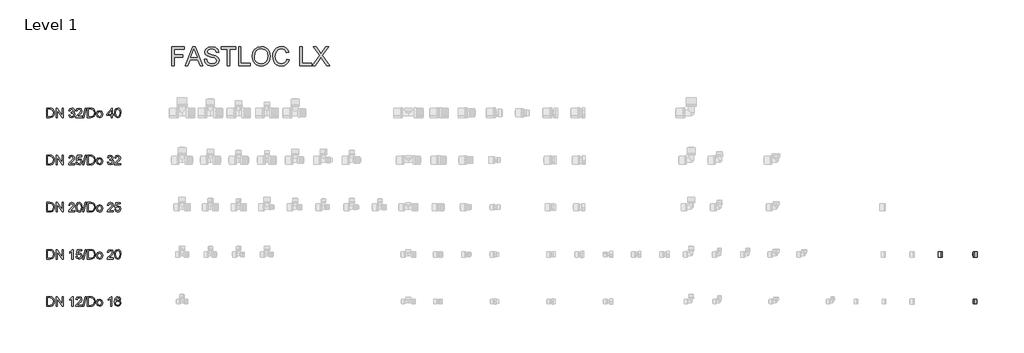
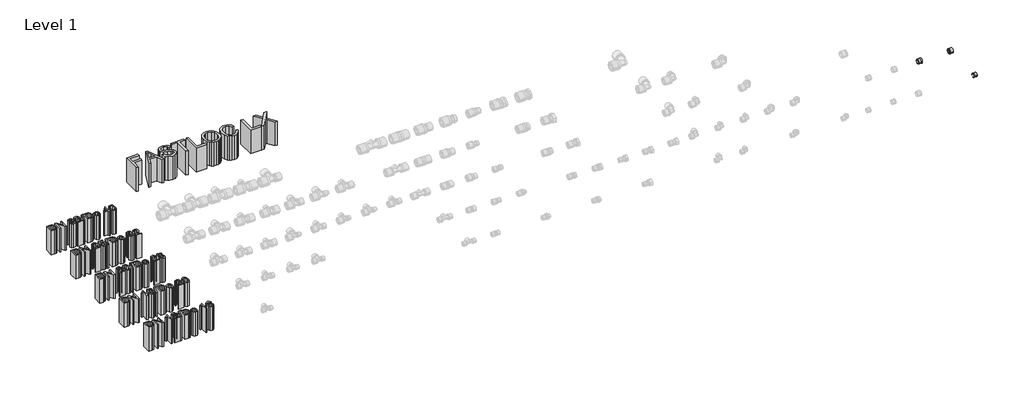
# One storey, part 4 of 4: 7 pipe fittings, 6 proxies.
"""IFC4 building model written with IfcOpenShell, lengths in millimetres."""

from ifc_helpers import new_model, si_unit, origin, origin_with_axes, place, context, project, spatial, polyline, outline, extrude, transform, mapped, element, save
from components import pipe_fitting_9e10578f, pipe_fitting_d1512616, pipe_fitting_53f43fdb, pipe_fitting_00778674, sleeve_fsl_pvdf_6f319e2d, sleeve_fsl_pvdf_957fc3e3, sleeve_fsl_pvdf_9ecdae78

model = new_model("IFC4")

# Units and contexts
model_context = context("Model", 3, world=origin())
ifc_project = project(units=[si_unit("LENGTHUNIT", "METRE", prefix="MILLI")], contexts=[model_context])

# Site, building, storey
site = spatial("IfcSite", under=ifc_project)
building = spatial("IfcBuilding", under=site)
storey = spatial("IfcBuildingStorey", under=building, Name="Level 1", Elevation=0.0)

# Proxies
placement = place(None, origin())
element("IfcBuildingElementProxy", 1, Name="100", ObjectType="100", at=placement, inside=storey, context=model_context, shape_type="SweptSolid", body=[
    extrude(outline(polyline([(-55.4125911, 1250.0), (-55.4125911, 1350.4563101), (12.0814923, 1350.4563101), (12.0814923, 1337.8992714), (-42.8555523, 1337.8992714), (-42.8555523, 1308.0763043), (4.2333431, 1308.0763043), (4.2333431, 1295.5192655), (-42.8555523, 1295.5192655), (-42.8555523, 1250.0), (-55.4125911, 1250.0)])), origin_with_axes(), (0.0, 0.0, 1.0), 150.0),
    extrude(outline(polyline([(17.6487732, 1250.0), (57.7479106, 1350.4563101), (68.441014, 1350.4563101), (108.5401514, 1250.0), (95.2718741, 1250.0), (83.7694304, 1281.3925969), (42.3949687, 1281.3925969), (30.9170505, 1250.0), (17.6487732, 1250.0)]), holes=[polyline([(47.0057564, 1293.9496357), (79.1831682, 1293.9496357), (70.1332711, 1318.6467803), (63.0944623, 1337.8992714), (56.8404684, 1320.8050213), (47.0057564, 1293.9496357)])]), origin_with_axes(), (0.0, 0.0, 1.0), 150.0),
    extrude(outline(polyline([(117.246692, 1284.5318566), (129.8037308, 1284.5318566), (133.8504327, 1271.9625551), (143.7341956, 1264.016304), (158.792832, 1260.9874089), (171.9139565, 1263.28054), (180.3875051, 1269.5835849), (183.1711455, 1278.0080826), (181.0864809, 1285.8439691), (172.5516186, 1291.54614), (154.2678834, 1296.3408687), (134.5861967, 1302.5335489), (123.9053561, 1311.8777516), (120.3859517, 1324.361214), (124.739222, 1338.5737217), (137.4556763, 1348.6046374), (156.0705052, 1352.02594), (175.936133, 1348.4452219), (189.1798848, 1337.9237968), (194.1585545, 1322.2029729), (181.6015157, 1322.2029729), (179.2961218, 1329.6955029), (174.4891304, 1335.1033682), (156.5610145, 1339.4689012), (138.5838477, 1335.1524192), (132.9429905, 1324.729096), (136.9406415, 1316.0225554), (157.4439313, 1309.008272), (179.6640038, 1302.7052272), (191.8163724, 1292.5271586), (195.7281843, 1278.3269136), (191.2277612, 1263.3050655), (178.278315, 1252.342182), (159.2833413, 1248.4303702), (136.8548023, 1252.6487504), (122.6668201, 1265.3529419), (117.246692, 1284.5318566)])), origin_with_axes(), (0.0, 0.0, 1.0), 150.0),
    extrude(outline(polyline([(239.67782, 1250.0), (239.67782, 1337.8992714), (206.7155932, 1337.8992714), (206.7155932, 1350.4563101), (285.1970855, 1350.4563101), (285.1970855, 1337.8992714), (252.2348588, 1337.8992714), (252.2348588, 1250.0), (239.67782, 1250.0)])), origin_with_axes(), (0.0, 0.0, 1.0), 150.0),
    extrude(outline(polyline([(299.3237541, 1250.0), (299.3237541, 1350.4563101), (311.8807929, 1350.4563101), (311.8807929, 1262.5570388), (362.108948, 1262.5570388), (362.108948, 1250.0), (299.3237541, 1250.0)])), origin_with_axes(), (0.0, 0.0, 1.0), 150.0),
    extrude(outline(polyline([(371.5267271, 1298.9037799), (374.8744532, 1321.117721), (384.9176317, 1337.9237968), (400.2521795, 1348.5004042), (419.4740138, 1352.02594), (432.6503206, 1350.370471), (444.465464, 1345.4040641), (454.2756505, 1337.4762071), (461.4370867, 1326.9363879), (465.8148824, 1314.29351), (467.2741477, 1300.0564768), (465.7382403, 1285.6293712), (461.1305184, 1272.8086837), (453.7054334, 1262.2504704), (443.7174372, 1254.6107877), (432.0034614, 1249.9754745), (419.4004374, 1248.4303702), (406.0217955, 1250.1379557), (394.139207, 1255.2607125), (384.353546, 1263.3357223), (377.2656862, 1273.900067), (371.5267271, 1298.9037799)]), holes=[polyline([(384.0837658, 1298.7811526), (386.5945604, 1283.06646), (394.1269443, 1271.0919011), (405.4485127, 1263.513532), (419.326861, 1260.9874089), (433.4075443, 1263.5380574), (444.7475068, 1271.1900029), (452.2247084, 1283.5324439), (454.7171089, 1300.1545787), (450.4496778, 1320.8785977), (437.9784781, 1334.6005962), (419.5475902, 1339.4689012), (406.0401896, 1337.1236535), (394.55614, 1330.0879103), (386.7018594, 1317.5707255), (384.0837658, 1298.7811526)])]), origin_with_axes(), (0.0, 0.0, 1.0), 150.0),
    extrude(outline(polyline([(555.1734191, 1285.709079), (567.7304578, 1282.4717174), (561.9363164, 1267.8392111), (552.8434997, 1257.1491734), (540.8995976, 1250.610071), (526.5521998, 1248.4303702), (511.9871385, 1250.0797078), (500.4203154, 1255.0277206), (491.5543594, 1263.1027304), (485.091899, 1274.1330589), (479.8311864, 1300.9884445), (481.3180428, 1315.6362793), (485.778612, 1328.2852886), (492.9799021, 1338.5338678), (502.6889211, 1345.9804125), (514.2036275, 1350.5145581), (526.82198, 1352.02594), (540.5899636, 1350.0700341), (551.9728457, 1344.2023162), (560.6150069, 1334.7845372), (566.160828, 1322.1784475), (553.6037892, 1319.1863406), (543.3030933, 1334.6251216), (526.3314706, 1339.4689012), (506.6865721, 1334.0978241), (495.5887986, 1319.6768499), (492.3882252, 1301.01297), (496.1774098, 1279.3815087), (507.9741591, 1265.5614084), (525.301401, 1260.9874089), (535.7829722, 1262.544776), (544.5171039, 1267.2168774), (551.1113887, 1274.954662), (555.1734191, 1285.709079)])), origin_with_axes(), (0.0, 0.0, 1.0), 150.0),
    extrude(outline(polyline([(624.2371323, 1250.0), (624.2371323, 1350.4563101), (636.794171, 1350.4563101), (636.794171, 1262.5570388), (687.0223261, 1262.5570388), (687.0223261, 1250.0), (624.2371323, 1250.0)])), origin_with_axes(), (0.0, 0.0, 1.0), 150.0),
    extrude(outline(polyline([(690.1615858, 1250.0), (728.8872972, 1304.7408409), (696.4401052, 1350.4563101), (711.4987415, 1350.4563101), (729.770214, 1324.729096), (735.926106, 1314.6981802), (743.1365931, 1324.9007742), (761.2118618, 1350.4563101), (776.4912273, 1350.4563101), (744.0440354, 1304.5936881), (782.7697467, 1250.0), (767.7111104, 1250.0), (741.9103198, 1286.3957921), (736.5392427, 1293.9496357), (730.6286053, 1285.6600281), (705.4409513, 1250.0), (690.1615858, 1250.0)])), origin_with_axes(), (0.0, 0.0, 1.0), 150.0),
])
element("IfcBuildingElementProxy", 2, Name="50", ObjectType="50", at=placement, inside=storey, context=model_context, shape_type="SweptSolid", body=[
    extrude(outline(polyline([(-718.8952859, -25.0), (-718.8952859, 25.2281551), (-701.5680439, 25.2281551), (-692.6039859, 24.5046538), (-685.2218206, 20.911673), (-679.274395, 12.3277598), (-677.3000949, 0.3838577), (-678.6367329, -9.7512913), (-682.0702982, -17.0660116), (-686.6565604, -21.621617), (-692.6591682, -24.1416087), (-700.734178, -25.0), (-718.8952859, -25.0)]), holes=[polyline([(-712.6167665, -18.7214806), (-701.5067302, -18.7214806), (-693.4255891, -17.8140384), (-688.7657505, -15.2511271), (-684.9459091, -9.0155273), (-683.5786143, 0.4819595), (-686.2580215, 12.3768107), (-692.7756642, 17.9440916), (-701.6784085, 18.9496357), (-712.6167665, 18.9496357), (-712.6167665, -18.7214806)])]), origin_with_axes(), (0.0, 0.0, 1.0), 150.0),
    extrude(outline(polyline([(-668.6671308, -25.0), (-668.6671308, 25.2281551), (-661.947153, 25.2281551), (-635.704904, -14.5644141), (-635.704904, 25.2281551), (-629.4263846, 25.2281551), (-629.4263846, -25.0), (-636.1463624, -25.0), (-662.3886114, 14.8048319), (-662.3886114, -25.0), (-668.6671308, -25.0)])), origin_with_axes(), (0.0, 0.0, 1.0), 150.0),
    extrude(outline(polyline([(-577.6285997, -25.0), (-583.9071191, -25.0), (-583.9071191, 14.1426443), (-589.8545447, 9.90587), (-596.4641579, 6.7359535), (-596.4641579, 12.6711163), (-587.2609766, 18.5449655), (-581.6753017, 25.2281551), (-577.6285997, 25.2281551), (-577.6285997, -25.0)])), origin_with_axes(), (0.0, 0.0, 1.0), 150.0),
    extrude(outline(polyline([(-530.5397043, -18.7214806), (-530.5397043, -25.0), (-563.5019311, -25.0), (-562.8274808, -20.6712552), (-559.0137708, -14.0064597), (-551.1533588, -6.7285276), (-540.3131027, 3.7315838), (-537.6030386, 10.8439691), (-540.1598185, 16.6013223), (-546.8368767, 18.9496357), (-553.7959778, 16.6565046), (-556.4385968, 10.3166715), (-562.7171162, 11.1014865), (-557.9039934, 21.6106488), (-546.7019867, 25.2281551), (-535.4631917, 21.2059786), (-531.3245193, 11.2241138), (-532.440428, 5.2705568), (-536.1499048, -0.8853352), (-545.1446195, -9.4876425), (-552.3673694, -15.5270386), (-555.2000608, -18.7214806), (-530.5397043, -18.7214806)])), origin_with_axes(), (0.0, 0.0, 1.0), 150.0),
    extrude(outline(polyline([(-527.4004446, -25.0), (-513.273776, 25.2281551), (-507.6083933, 25.2281551), (-521.7350619, -25.0), (-527.4004446, -25.0)])), origin_with_axes(), (0.0, 0.0, 1.0), 150.0),
    extrude(outline(polyline([(-502.2863671, -25.0), (-502.2863671, 25.2281551), (-484.9591251, 25.2281551), (-475.9950672, 24.5046538), (-468.6129018, 20.911673), (-462.6654762, 12.3277598), (-460.6911762, 0.3838577), (-462.0278141, -9.7512913), (-465.4613794, -17.0660116), (-470.0476416, -21.621617), (-476.0502495, -24.1416087), (-484.1252593, -25.0), (-502.2863671, -25.0)]), holes=[polyline([(-496.0078477, -18.7214806), (-484.8978115, -18.7214806), (-476.8166703, -17.8140384), (-472.1568317, -15.2511271), (-468.3369903, -9.0155273), (-466.9696956, 0.4819595), (-469.6491028, 12.3768107), (-476.1667455, 17.9440916), (-485.0694897, 18.9496357), (-496.0078477, 18.9496357), (-496.0078477, -18.7214806)])]), origin_with_axes(), (0.0, 0.0, 1.0), 150.0),
    extrude(outline(polyline([(-454.4126568, -6.5568493), (-453.0545591, 2.3366979), (-448.980266, 8.5876262), (-437.9192807, 12.6711163), (-426.0550863, 7.698578), (-421.45043, -6.0418145), (-423.4860437, -17.2131644), (-429.4150752, -23.5346034), (-437.9192807, -25.7848149), (-449.8570514, -20.8306707), (-454.4126568, -6.5568493)]), holes=[polyline([(-448.1341374, -6.5445866), (-445.2278697, -16.2750653), (-437.9192807, -19.5062955), (-430.6352172, -16.2566712), (-427.7289494, -6.3483828), (-430.6536113, 3.1613667), (-437.9192807, 6.3925969), (-445.2278697, 3.1736295), (-448.1341374, -6.5445866)])]), origin_with_axes(), (0.0, 0.0, 1.0), 150.0),
    extrude(outline(polyline([(-372.7919048, -25.0), (-379.0704242, -25.0), (-379.0704242, 14.1426443), (-385.0178498, 9.90587), (-391.627463, 6.7359535), (-391.627463, 12.6711163), (-382.4242817, 18.5449655), (-376.8386068, 25.2281551), (-372.7919048, 25.2281551), (-372.7919048, -25.0)])), origin_with_axes(), (0.0, 0.0, 1.0), 150.0),
    extrude(outline(polyline([(-325.7030094, 11.8863014), (-331.9815288, 11.1014865), (-334.360499, 16.3376735), (-340.6512812, 18.9496357), (-346.3166639, 17.4290568), (-350.6024891, 11.7207545), (-352.3867168, 0.5310105), (-346.8500928, 5.540337), (-339.9890936, 7.1774118), (-329.3205157, 2.7015142), (-324.9181945, -8.8622431), (-326.9905964, -17.5258641), (-332.6927673, -23.6572307), (-340.9210613, -25.7848149), (-353.7172234, -20.1439577), (-357.428233, -12.6759532), (-358.6652362, -1.5536542), (-357.2918101, 10.951268), (-353.1715317, 19.5014587), (-347.5460029, 23.796481), (-340.2588737, 25.2281551), (-330.3383226, 21.6842252), (-325.7030094, 11.8863014)]), holes=[polyline([(-352.3867168, -8.7641413), (-350.9335829, -14.2026634), (-347.070822, -18.1512635), (-341.4115706, -19.5062955), (-334.0110111, -16.6981296), (-331.1967139, -9.0707096), (-333.974223, -1.768252), (-341.669088, 0.8988925), (-349.2658512, -1.768252), (-352.3867168, -8.7641413)])]), origin_with_axes(), (0.0, 0.0, 1.0), 150.0),
])
element("IfcBuildingElementProxy", 3, Name="50", ObjectType="50", at=placement, inside=storey, context=model_context, shape_type="SweptSolid", body=[
    extrude(outline(polyline([(-718.8952859, 225.0), (-718.8952859, 275.2281551), (-701.5680439, 275.2281551), (-692.6039859, 274.5046538), (-685.2218206, 270.911673), (-679.274395, 262.3277598), (-677.3000949, 250.3838577), (-678.6367329, 240.2487087), (-682.0702982, 232.9339884), (-686.6565604, 228.378383), (-692.6591682, 225.8583913), (-700.734178, 225.0), (-718.8952859, 225.0)]), holes=[polyline([(-712.6167665, 231.2785194), (-701.5067302, 231.2785194), (-693.4255891, 232.1859616), (-688.7657505, 234.7488729), (-684.9459091, 240.9844727), (-683.5786143, 250.4819595), (-686.2580215, 262.3768107), (-692.7756642, 267.9440916), (-701.6784085, 268.9496357), (-712.6167665, 268.9496357), (-712.6167665, 231.2785194)])]), origin_with_axes(), (0.0, 0.0, 1.0), 150.0),
    extrude(outline(polyline([(-668.6671308, 225.0), (-668.6671308, 275.2281551), (-661.947153, 275.2281551), (-635.704904, 235.4355859), (-635.704904, 275.2281551), (-629.4263846, 275.2281551), (-629.4263846, 225.0), (-636.1463624, 225.0), (-662.3886114, 264.8048319), (-662.3886114, 225.0), (-668.6671308, 225.0)])), origin_with_axes(), (0.0, 0.0, 1.0), 150.0),
    extrude(outline(polyline([(-577.6285997, 225.0), (-583.9071191, 225.0), (-583.9071191, 264.1426443), (-589.8545447, 259.90587), (-596.4641579, 256.7359535), (-596.4641579, 262.6711163), (-587.2609766, 268.5449655), (-581.6753017, 275.2281551), (-577.6285997, 275.2281551), (-577.6285997, 225.0)])), origin_with_axes(), (0.0, 0.0, 1.0), 150.0),
    extrude(outline(polyline([(-562.7171162, 238.3418537), (-556.4385968, 239.1266686), (-553.2748116, 232.6580769), (-546.7142494, 230.4937045), (-538.8415747, 233.5042055), (-536.0334088, 241.4933761), (-538.6637651, 248.9491179), (-546.6161475, 251.6837074), (-552.1282461, 250.5923241), (-555.6537819, 247.7596328), (-561.9323013, 248.5444477), (-556.4385968, 274.4433402), (-532.1093342, 274.4433402), (-532.1093342, 268.1648208), (-551.3618253, 268.1648208), (-554.0473638, 254.3324577), (-544.8625767, 257.9622268), (-534.1265538, 253.4618037), (-529.7548894, 241.8857836), (-533.6912268, 230.2361871), (-539.3443468, 225.7204356), (-546.7387749, 224.2151851), (-557.8181543, 228.0840774), (-562.7171162, 238.3418537)])), origin_with_axes(), (0.0, 0.0, 1.0), 150.0),
    extrude(outline(polyline([(-527.4004446, 225.0), (-513.273776, 275.2281551), (-507.6083933, 275.2281551), (-521.7350619, 225.0), (-527.4004446, 225.0)])), origin_with_axes(), (0.0, 0.0, 1.0), 150.0),
    extrude(outline(polyline([(-502.2863671, 225.0), (-502.2863671, 275.2281551), (-484.9591251, 275.2281551), (-475.9950672, 274.5046538), (-468.6129018, 270.911673), (-462.6654762, 262.3277598), (-460.6911762, 250.3838577), (-462.0278141, 240.2487087), (-465.4613794, 232.9339884), (-470.0476416, 228.378383), (-476.0502495, 225.8583913), (-484.1252593, 225.0), (-502.2863671, 225.0)]), holes=[polyline([(-496.0078477, 231.2785194), (-484.8978115, 231.2785194), (-476.8166703, 232.1859616), (-472.1568317, 234.7488729), (-468.3369903, 240.9844727), (-466.9696956, 250.4819595), (-469.6491028, 262.3768107), (-476.1667455, 267.9440916), (-485.0694897, 268.9496357), (-496.0078477, 268.9496357), (-496.0078477, 231.2785194)])]), origin_with_axes(), (0.0, 0.0, 1.0), 150.0),
    extrude(outline(polyline([(-454.4126568, 243.4431507), (-453.0545591, 252.3366979), (-448.980266, 258.5876262), (-437.9192807, 262.6711163), (-426.0550863, 257.698578), (-421.45043, 243.9581855), (-423.4860437, 232.7868356), (-429.4150752, 226.4653966), (-437.9192807, 224.2151851), (-449.8570514, 229.1693293), (-454.4126568, 243.4431507)]), holes=[polyline([(-448.1341374, 243.4554134), (-445.2278697, 233.7249347), (-437.9192807, 230.4937045), (-430.6352172, 233.7433288), (-427.7289494, 243.6516172), (-430.6536113, 253.1613667), (-437.9192807, 256.3925969), (-445.2278697, 253.1736295), (-448.1341374, 243.4554134)])]), origin_with_axes(), (0.0, 0.0, 1.0), 150.0),
    extrude(outline(polyline([(-364.1589407, 231.2785194), (-364.1589407, 225.0), (-397.1211674, 225.0), (-396.4467171, 229.3287448), (-392.6330071, 235.9935403), (-384.7725951, 243.2714724), (-373.932339, 253.7315838), (-371.222275, 260.8439691), (-373.7790548, 266.6013223), (-380.456113, 268.9496357), (-387.4152141, 266.6565046), (-390.0578331, 260.3166715), (-396.3363525, 261.1014865), (-391.5232297, 271.6106488), (-380.321223, 275.2281551), (-369.082428, 271.2059786), (-364.9437556, 261.2241138), (-366.0596643, 255.2705568), (-369.7691411, 249.1146648), (-378.7638559, 240.5123575), (-385.9866057, 234.4729614), (-388.8192971, 231.2785194), (-364.1589407, 231.2785194)])), origin_with_axes(), (0.0, 0.0, 1.0), 150.0),
    extrude(outline(polyline([(-357.8804213, 249.7094073), (-356.0348799, 264.1610384), (-350.5534382, 272.4935656), (-341.3993079, 275.2281551), (-334.0661934, 273.6094743), (-329.0016846, 268.9435043), (-326.0586287, 261.512288), (-324.9181945, 249.7094073), (-326.7453417, 235.31909), (-332.2083894, 226.9681687), (-341.3993079, 224.2151851), (-352.8772261, 228.997651), (-356.6296225, 237.4926594), (-357.8804213, 249.7094073)]), holes=[polyline([(-351.6019019, 249.7216701), (-348.6588459, 234.1296048), (-341.3993079, 230.4937045), (-334.1397698, 234.1418676), (-331.1967139, 249.7216701), (-334.041668, 265.1359257), (-341.4728843, 268.9496357), (-348.5607441, 265.5896468), (-351.6019019, 249.7216701)])]), origin_with_axes(), (0.0, 0.0, 1.0), 150.0),
])
element("IfcBuildingElementProxy", 4, Name="50", ObjectType="50", at=placement, inside=storey, context=model_context, shape_type="SweptSolid", body=[
    extrude(outline(polyline([(-718.8952859, 475.0), (-718.8952859, 525.2281551), (-701.5680439, 525.2281551), (-692.6039859, 524.5046538), (-685.2218206, 520.911673), (-679.274395, 512.3277598), (-677.3000949, 500.3838577), (-678.6367329, 490.2487087), (-682.0702982, 482.9339884), (-686.6565604, 478.378383), (-692.6591682, 475.8583913), (-700.734178, 475.0), (-718.8952859, 475.0)]), holes=[polyline([(-712.6167665, 481.2785194), (-701.5067302, 481.2785194), (-693.4255891, 482.1859616), (-688.7657505, 484.7488729), (-684.9459091, 490.9844727), (-683.5786143, 500.4819595), (-686.2580215, 512.3768107), (-692.7756642, 517.9440916), (-701.6784085, 518.9496357), (-712.6167665, 518.9496357), (-712.6167665, 481.2785194)])]), origin_with_axes(), (0.0, 0.0, 1.0), 150.0),
    extrude(outline(polyline([(-668.6671308, 475.0), (-668.6671308, 525.2281551), (-661.947153, 525.2281551), (-635.704904, 485.4355859), (-635.704904, 525.2281551), (-629.4263846, 525.2281551), (-629.4263846, 475.0), (-636.1463624, 475.0), (-662.3886114, 514.8048319), (-662.3886114, 475.0), (-668.6671308, 475.0)])), origin_with_axes(), (0.0, 0.0, 1.0), 150.0),
    extrude(outline(polyline([(-568.9956356, 481.2785194), (-568.9956356, 475.0), (-601.9578623, 475.0), (-601.283412, 479.3287448), (-597.469702, 485.9935403), (-589.60929, 493.2714724), (-578.7690339, 503.7315838), (-576.0589699, 510.8439691), (-578.6157497, 516.6013223), (-585.292808, 518.9496357), (-592.251909, 516.6565046), (-594.894528, 510.3166715), (-601.1730474, 511.1014865), (-596.3599246, 521.6106488), (-585.1579179, 525.2281551), (-573.9191229, 521.2059786), (-569.7804505, 511.2241138), (-570.8963592, 505.2705568), (-574.605836, 499.1146648), (-583.6005508, 490.5123575), (-590.8233006, 484.4729614), (-593.655992, 481.2785194), (-568.9956356, 481.2785194)])), origin_with_axes(), (0.0, 0.0, 1.0), 150.0),
    extrude(outline(polyline([(-562.7171162, 499.7094073), (-560.8715748, 514.1610384), (-555.3901331, 522.4935656), (-546.2360028, 525.2281551), (-538.9028884, 523.6094743), (-533.8383796, 518.9435043), (-530.8953236, 511.512288), (-529.7548894, 499.7094073), (-531.5820367, 485.31909), (-537.0450843, 476.9681687), (-546.2360028, 474.2151851), (-557.7139211, 478.997651), (-561.4663174, 487.4926594), (-562.7171162, 499.7094073)]), holes=[polyline([(-556.4385968, 499.7216701), (-553.4955408, 484.1296048), (-546.2360028, 480.4937045), (-538.9764648, 484.1418676), (-536.0334088, 499.7216701), (-538.8783629, 515.1359257), (-546.3095792, 518.9496357), (-553.397439, 515.5896468), (-556.4385968, 499.7216701)])]), origin_with_axes(), (0.0, 0.0, 1.0), 150.0),
    extrude(outline(polyline([(-527.4004446, 475.0), (-513.273776, 525.2281551), (-507.6083933, 525.2281551), (-521.7350619, 475.0), (-527.4004446, 475.0)])), origin_with_axes(), (0.0, 0.0, 1.0), 150.0),
    extrude(outline(polyline([(-502.2863671, 475.0), (-502.2863671, 525.2281551), (-484.9591251, 525.2281551), (-475.9950672, 524.5046538), (-468.6129018, 520.911673), (-462.6654762, 512.3277598), (-460.6911762, 500.3838577), (-462.0278141, 490.2487087), (-465.4613794, 482.9339884), (-470.0476416, 478.378383), (-476.0502495, 475.8583913), (-484.1252593, 475.0), (-502.2863671, 475.0)]), holes=[polyline([(-496.0078477, 481.2785194), (-484.8978115, 481.2785194), (-476.8166703, 482.1859616), (-472.1568317, 484.7488729), (-468.3369903, 490.9844727), (-466.9696956, 500.4819595), (-469.6491028, 512.3768107), (-476.1667455, 517.9440916), (-485.0694897, 518.9496357), (-496.0078477, 518.9496357), (-496.0078477, 481.2785194)])]), origin_with_axes(), (0.0, 0.0, 1.0), 150.0),
    extrude(outline(polyline([(-454.4126568, 493.4431507), (-453.0545591, 502.3366979), (-448.980266, 508.5876262), (-437.9192807, 512.6711163), (-426.0550863, 507.698578), (-421.45043, 493.9581855), (-423.4860437, 482.7868356), (-429.4150752, 476.4653966), (-437.9192807, 474.2151851), (-449.8570514, 479.1693293), (-454.4126568, 493.4431507)]), holes=[polyline([(-448.1341374, 493.4554134), (-445.2278697, 483.7249347), (-437.9192807, 480.4937045), (-430.6352172, 483.7433288), (-427.7289494, 493.6516172), (-430.6536113, 503.1613667), (-437.9192807, 506.3925969), (-445.2278697, 503.1736295), (-448.1341374, 493.4554134)])]), origin_with_axes(), (0.0, 0.0, 1.0), 150.0),
    extrude(outline(polyline([(-364.1589407, 481.2785194), (-364.1589407, 475.0), (-397.1211674, 475.0), (-396.4467171, 479.3287448), (-392.6330071, 485.9935403), (-384.7725951, 493.2714724), (-373.932339, 503.7315838), (-371.222275, 510.8439691), (-373.7790548, 516.6013223), (-380.456113, 518.9496357), (-387.4152141, 516.6565046), (-390.0578331, 510.3166715), (-396.3363525, 511.1014865), (-391.5232297, 521.6106488), (-380.321223, 525.2281551), (-369.082428, 521.2059786), (-364.9437556, 511.2241138), (-366.0596643, 505.2705568), (-369.7691411, 499.1146648), (-378.7638559, 490.5123575), (-385.9866057, 484.4729614), (-388.8192971, 481.2785194), (-364.1589407, 481.2785194)])), origin_with_axes(), (0.0, 0.0, 1.0), 150.0),
    extrude(outline(polyline([(-357.8804213, 488.3418537), (-351.6019019, 489.1266686), (-348.4381167, 482.6580769), (-341.8775545, 480.4937045), (-334.0048798, 483.5042055), (-331.1967139, 491.4933761), (-333.8270702, 498.9491179), (-341.7794526, 501.6837074), (-347.2915512, 500.5923241), (-350.817087, 497.7596328), (-357.0956063, 498.5444477), (-351.6019019, 524.4433402), (-327.2726393, 524.4433402), (-327.2726393, 518.1648208), (-346.5251304, 518.1648208), (-349.2106689, 504.3324577), (-340.0258818, 507.9622268), (-329.2898589, 503.4618037), (-324.9181945, 491.8857836), (-328.8545319, 480.2361871), (-334.5076518, 475.7204356), (-341.9020799, 474.2151851), (-352.9814594, 478.0840774), (-357.8804213, 488.3418537)])), origin_with_axes(), (0.0, 0.0, 1.0), 150.0),
])
element("IfcBuildingElementProxy", 5, Name="50", ObjectType="50", at=placement, inside=storey, context=model_context, shape_type="SweptSolid", body=[
    extrude(outline(polyline([(-718.8952859, 725.0), (-718.8952859, 775.2281551), (-701.5680439, 775.2281551), (-692.6039859, 774.5046538), (-685.2218206, 770.911673), (-679.274395, 762.3277598), (-677.3000949, 750.3838577), (-678.6367329, 740.2487087), (-682.0702982, 732.9339884), (-686.6565604, 728.378383), (-692.6591682, 725.8583913), (-700.734178, 725.0), (-718.8952859, 725.0)]), holes=[polyline([(-712.6167665, 731.2785194), (-701.5067302, 731.2785194), (-693.4255891, 732.1859616), (-688.7657505, 734.7488729), (-684.9459091, 740.9844727), (-683.5786143, 750.4819595), (-686.2580215, 762.3768107), (-692.7756642, 767.9440916), (-701.6784085, 768.9496357), (-712.6167665, 768.9496357), (-712.6167665, 731.2785194)])]), origin_with_axes(), (0.0, 0.0, 1.0), 150.0),
    extrude(outline(polyline([(-668.6671308, 725.0), (-668.6671308, 775.2281551), (-661.947153, 775.2281551), (-635.704904, 735.4355859), (-635.704904, 775.2281551), (-629.4263846, 775.2281551), (-629.4263846, 725.0), (-636.1463624, 725.0), (-662.3886114, 764.8048319), (-662.3886114, 725.0), (-668.6671308, 725.0)])), origin_with_axes(), (0.0, 0.0, 1.0), 150.0),
    extrude(outline(polyline([(-568.9956356, 731.2785194), (-568.9956356, 725.0), (-601.9578623, 725.0), (-601.283412, 729.3287448), (-597.469702, 735.9935403), (-589.60929, 743.2714724), (-578.7690339, 753.7315838), (-576.0589699, 760.8439691), (-578.6157497, 766.6013223), (-585.292808, 768.9496357), (-592.251909, 766.6565046), (-594.894528, 760.3166715), (-601.1730474, 761.1014865), (-596.3599246, 771.6106488), (-585.1579179, 775.2281551), (-573.9191229, 771.2059786), (-569.7804505, 761.2241138), (-570.8963592, 755.2705568), (-574.605836, 749.1146648), (-583.6005508, 740.5123575), (-590.8233006, 734.4729614), (-593.655992, 731.2785194), (-568.9956356, 731.2785194)])), origin_with_axes(), (0.0, 0.0, 1.0), 150.0),
    extrude(outline(polyline([(-562.7171162, 738.3418537), (-556.4385968, 739.1266686), (-553.2748116, 732.6580769), (-546.7142494, 730.4937045), (-538.8415747, 733.5042055), (-536.0334088, 741.4933761), (-538.6637651, 748.9491179), (-546.6161475, 751.6837074), (-552.1282461, 750.5923241), (-555.6537819, 747.7596328), (-561.9323013, 748.5444477), (-556.4385968, 774.4433402), (-532.1093342, 774.4433402), (-532.1093342, 768.1648208), (-551.3618253, 768.1648208), (-554.0473638, 754.3324577), (-544.8625767, 757.9622268), (-534.1265538, 753.4618037), (-529.7548894, 741.8857836), (-533.6912268, 730.2361871), (-539.3443468, 725.7204356), (-546.7387749, 724.2151851), (-557.8181543, 728.0840774), (-562.7171162, 738.3418537)])), origin_with_axes(), (0.0, 0.0, 1.0), 150.0),
    extrude(outline(polyline([(-527.4004446, 725.0), (-513.273776, 775.2281551), (-507.6083933, 775.2281551), (-521.7350619, 725.0), (-527.4004446, 725.0)])), origin_with_axes(), (0.0, 0.0, 1.0), 150.0),
    extrude(outline(polyline([(-502.2863671, 725.0), (-502.2863671, 775.2281551), (-484.9591251, 775.2281551), (-475.9950672, 774.5046538), (-468.6129018, 770.911673), (-462.6654762, 762.3277598), (-460.6911762, 750.3838577), (-462.0278141, 740.2487087), (-465.4613794, 732.9339884), (-470.0476416, 728.378383), (-476.0502495, 725.8583913), (-484.1252593, 725.0), (-502.2863671, 725.0)]), holes=[polyline([(-496.0078477, 731.2785194), (-484.8978115, 731.2785194), (-476.8166703, 732.1859616), (-472.1568317, 734.7488729), (-468.3369903, 740.9844727), (-466.9696956, 750.4819595), (-469.6491028, 762.3768107), (-476.1667455, 767.9440916), (-485.0694897, 768.9496357), (-496.0078477, 768.9496357), (-496.0078477, 731.2785194)])]), origin_with_axes(), (0.0, 0.0, 1.0), 150.0),
    extrude(outline(polyline([(-454.4126568, 743.4431507), (-453.0545591, 752.3366979), (-448.980266, 758.5876262), (-437.9192807, 762.6711163), (-426.0550863, 757.698578), (-421.45043, 743.9581855), (-423.4860437, 732.7868356), (-429.4150752, 726.4653966), (-437.9192807, 724.2151851), (-449.8570514, 729.1693293), (-454.4126568, 743.4431507)]), holes=[polyline([(-448.1341374, 743.4554134), (-445.2278697, 733.7249347), (-437.9192807, 730.4937045), (-430.6352172, 733.7433288), (-427.7289494, 743.6516172), (-430.6536113, 753.1613667), (-437.9192807, 756.3925969), (-445.2278697, 753.1736295), (-448.1341374, 743.4554134)])]), origin_with_axes(), (0.0, 0.0, 1.0), 150.0),
    extrude(outline(polyline([(-396.3363525, 738.3418537), (-390.0578331, 739.1266686), (-386.593611, 732.5170554), (-380.1127565, 730.4937045), (-372.4853365, 733.2773449), (-369.6526451, 740.1690009), (-372.460811, 746.6621181), (-379.5977217, 749.2311607), (-384.0000429, 748.5444477), (-383.3010671, 754.8229671), (-375.170875, 756.5520125), (-372.0070899, 762.0947678), (-374.300221, 767.0059925), (-380.2108584, 768.9496357), (-386.1950722, 766.9875984), (-389.2730182, 761.1014865), (-395.5515376, 761.8863014), (-390.4134524, 771.7332761), (-380.4315876, 775.2281551), (-372.8593498, 773.5052411), (-367.5618491, 768.7963515), (-365.7285705, 762.4626498), (-367.4698786, 756.6746398), (-372.6202265, 752.5175732), (-365.7776214, 748.2256166), (-363.3741257, 740.0586363), (-368.1811171, 728.8259727), (-380.3334857, 724.2151851), (-391.3454201, 728.1515224), (-396.3363525, 738.3418537)])), origin_with_axes(), (0.0, 0.0, 1.0), 150.0),
    extrude(outline(polyline([(-325.7030094, 731.2785194), (-325.7030094, 725.0), (-358.6652362, 725.0), (-357.9907859, 729.3287448), (-354.1770759, 735.9935403), (-346.3166639, 743.2714724), (-335.4764078, 753.7315838), (-332.7663437, 760.8439691), (-335.3231236, 766.6013223), (-342.0001818, 768.9496357), (-348.9592829, 766.6565046), (-351.6019019, 760.3166715), (-357.8804213, 761.1014865), (-353.0672985, 771.6106488), (-341.8652917, 775.2281551), (-330.6264968, 771.2059786), (-326.4878243, 761.2241138), (-327.6037331, 755.2705568), (-331.3132099, 749.1146648), (-340.3079246, 740.5123575), (-347.5306745, 734.4729614), (-350.3633658, 731.2785194), (-325.7030094, 731.2785194)])), origin_with_axes(), (0.0, 0.0, 1.0), 150.0),
])
element("IfcBuildingElementProxy", 6, Name="50", ObjectType="50", at=placement, inside=storey, context=model_context, shape_type="SweptSolid", body=[
    extrude(outline(polyline([(-718.8952859, 975.0), (-718.8952859, 1025.2281551), (-701.5680439, 1025.2281551), (-692.6039859, 1024.5046538), (-685.2218206, 1020.911673), (-679.274395, 1012.3277598), (-677.3000949, 1000.3838577), (-678.6367329, 990.2487087), (-682.0702982, 982.9339884), (-686.6565604, 978.378383), (-692.6591682, 975.8583913), (-700.734178, 975.0), (-718.8952859, 975.0)]), holes=[polyline([(-712.6167665, 981.2785194), (-701.5067302, 981.2785194), (-693.4255891, 982.1859616), (-688.7657505, 984.7488729), (-684.9459091, 990.9844727), (-683.5786143, 1000.4819595), (-686.2580215, 1012.3768107), (-692.7756642, 1017.9440916), (-701.6784085, 1018.9496357), (-712.6167665, 1018.9496357), (-712.6167665, 981.2785194)])]), origin_with_axes(), (0.0, 0.0, 1.0), 150.0),
    extrude(outline(polyline([(-668.6671308, 975.0), (-668.6671308, 1025.2281551), (-661.947153, 1025.2281551), (-635.704904, 985.4355859), (-635.704904, 1025.2281551), (-629.4263846, 1025.2281551), (-629.4263846, 975.0), (-636.1463624, 975.0), (-662.3886114, 1014.8048319), (-662.3886114, 975.0), (-668.6671308, 975.0)])), origin_with_axes(), (0.0, 0.0, 1.0), 150.0),
    extrude(outline(polyline([(-601.1730474, 988.3418537), (-594.894528, 989.1266686), (-591.4303059, 982.5170554), (-584.9494514, 980.4937045), (-577.3220314, 983.2773449), (-574.48934, 990.1690009), (-577.2975059, 996.6621181), (-584.4344166, 999.2311607), (-588.8367378, 998.5444477), (-588.1377621, 1004.8229671), (-580.00757, 1006.5520125), (-576.8437848, 1012.0947678), (-579.1369159, 1017.0059925), (-585.0475533, 1018.9496357), (-591.0317671, 1016.9875984), (-594.1097131, 1011.1014865), (-600.3882325, 1011.8863014), (-595.2501473, 1021.7332761), (-585.2682825, 1025.2281551), (-577.6960448, 1023.5052411), (-572.398544, 1018.7963515), (-570.5652654, 1012.4626498), (-572.3065735, 1006.6746398), (-577.4569215, 1002.5175732), (-570.6143163, 998.2256166), (-568.2108206, 990.0586363), (-573.017812, 978.8259727), (-585.1701806, 974.2151851), (-596.182115, 978.1515224), (-601.1730474, 988.3418537)])), origin_with_axes(), (0.0, 0.0, 1.0), 150.0),
    extrude(outline(polyline([(-530.5397043, 981.2785194), (-530.5397043, 975.0), (-563.5019311, 975.0), (-562.8274808, 979.3287448), (-559.0137708, 985.9935403), (-551.1533588, 993.2714724), (-540.3131027, 1003.7315838), (-537.6030386, 1010.8439691), (-540.1598185, 1016.6013223), (-546.8368767, 1018.9496357), (-553.7959778, 1016.6565046), (-556.4385968, 1010.3166715), (-562.7171162, 1011.1014865), (-557.9039934, 1021.6106488), (-546.7019867, 1025.2281551), (-535.4631917, 1021.2059786), (-531.3245193, 1011.2241138), (-532.440428, 1005.2705568), (-536.1499048, 999.1146648), (-545.1446195, 990.5123575), (-552.3673694, 984.4729614), (-555.2000608, 981.2785194), (-530.5397043, 981.2785194)])), origin_with_axes(), (0.0, 0.0, 1.0), 150.0),
    extrude(outline(polyline([(-527.4004446, 975.0), (-513.273776, 1025.2281551), (-507.6083933, 1025.2281551), (-521.7350619, 975.0), (-527.4004446, 975.0)])), origin_with_axes(), (0.0, 0.0, 1.0), 150.0),
    extrude(outline(polyline([(-502.2863671, 975.0), (-502.2863671, 1025.2281551), (-484.9591251, 1025.2281551), (-475.9950672, 1024.5046538), (-468.6129018, 1020.911673), (-462.6654762, 1012.3277598), (-460.6911762, 1000.3838577), (-462.0278141, 990.2487087), (-465.4613794, 982.9339884), (-470.0476416, 978.378383), (-476.0502495, 975.8583913), (-484.1252593, 975.0), (-502.2863671, 975.0)]), holes=[polyline([(-496.0078477, 981.2785194), (-484.8978115, 981.2785194), (-476.8166703, 982.1859616), (-472.1568317, 984.7488729), (-468.3369903, 990.9844727), (-466.9696956, 1000.4819595), (-469.6491028, 1012.3768107), (-476.1667455, 1017.9440916), (-485.0694897, 1018.9496357), (-496.0078477, 1018.9496357), (-496.0078477, 981.2785194)])]), origin_with_axes(), (0.0, 0.0, 1.0), 150.0),
    extrude(outline(polyline([(-454.4126568, 993.4431507), (-453.0545591, 1002.3366979), (-448.980266, 1008.5876262), (-437.9192807, 1012.6711163), (-426.0550863, 1007.698578), (-421.45043, 993.9581855), (-423.4860437, 982.7868356), (-429.4150752, 976.4653966), (-437.9192807, 974.2151851), (-449.8570514, 979.1693293), (-454.4126568, 993.4431507)]), holes=[polyline([(-448.1341374, 993.4554134), (-445.2278697, 983.7249347), (-437.9192807, 980.4937045), (-430.6352172, 983.7433288), (-427.7289494, 993.6516172), (-430.6536113, 1003.1613667), (-437.9192807, 1006.3925969), (-445.2278697, 1003.1736295), (-448.1341374, 993.4554134)])]), origin_with_axes(), (0.0, 0.0, 1.0), 150.0),
    extrude(outline(polyline([(-375.9311645, 975.0), (-375.9311645, 986.7722238), (-398.6907973, 986.7722238), (-398.6907973, 993.0507432), (-374.3615347, 1024.4433402), (-369.6526451, 1024.4433402), (-369.6526451, 993.0507432), (-363.3741257, 993.0507432), (-363.3741257, 986.7722238), (-369.6526451, 986.7722238), (-369.6526451, 975.0), (-375.9311645, 975.0)]), holes=[polyline([(-375.9311645, 993.0507432), (-375.9311645, 1012.4503871), (-390.9652754, 993.0507432), (-375.9311645, 993.0507432)])]), origin_with_axes(), (0.0, 0.0, 1.0), 150.0),
    extrude(outline(polyline([(-357.8804213, 999.7094073), (-356.0348799, 1014.1610384), (-350.5534382, 1022.4935656), (-341.3993079, 1025.2281551), (-334.0661934, 1023.6094743), (-329.0016846, 1018.9435043), (-326.0586287, 1011.512288), (-324.9181945, 999.7094073), (-326.7453417, 985.31909), (-332.2083894, 976.9681687), (-341.3993079, 974.2151851), (-352.8772261, 978.997651), (-356.6296225, 987.4926594), (-357.8804213, 999.7094073)]), holes=[polyline([(-351.6019019, 999.7216701), (-348.6588459, 984.1296048), (-341.3993079, 980.4937045), (-334.1397698, 984.1418676), (-331.1967139, 999.7216701), (-334.041668, 1015.1359257), (-341.4728843, 1018.9496357), (-348.5607441, 1015.5896468), (-351.6019019, 999.7216701)])]), origin_with_axes(), (0.0, 0.0, 1.0), 150.0),
])

# Pipe fittings
pipe_fitting_shape = pipe_fitting_9e10578f(model_context)
element("IfcPipeFitting", 7, ObjectType="FASTLOC_Sleeve outside : FSL S O DN1", at=placement, inside=storey, context=model_context, shape_type="MappedRepresentation", body=[
    mapped(pipe_fitting_shape, transform((4031.7, 250.0, 0.0), x_axis=(-1.0, 0.0, 0.0), y_axis=(0.0, -1.0, 0.0), z_axis=(0.0, 0.0, 1.0))),
])
pipe_fitting_2_shape = pipe_fitting_d1512616(model_context)
element("IfcPipeFitting", 8, ObjectType="FASTLOC_Sleeve outside : FSL S O DN1", at=placement, inside=storey, context=model_context, shape_type="MappedRepresentation", body=[
    mapped(pipe_fitting_2_shape, transform((4196.0, 0.0, 0.0), x_axis=(1.0, 0.0, 0.0), y_axis=(0.0, 1.0, 0.0), z_axis=(0.0, 0.0, 1.0))),
])
pipe_fitting_3_shape = pipe_fitting_53f43fdb(model_context)
element("IfcPipeFitting", 9, ObjectType="FASTLOC_Sleeve outside : FSL S O DN1", at=placement, inside=storey, context=model_context, shape_type="MappedRepresentation", body=[
    mapped(pipe_fitting_3_shape, transform((4195.3, 250.0, 0.0), x_axis=(1.0, 0.0, 0.0), y_axis=(0.0, 1.0, 0.0), z_axis=(0.0, 0.0, 1.0))),
])
pipe_fitting_4_shape = pipe_fitting_00778674(model_context)
element("IfcPipeFitting", 10, ObjectType="FASTLOC_Blanking plug LX : FSL Bp LX PL", at=placement, inside=storey, context=model_context, shape_type="MappedRepresentation", body=[
    mapped(pipe_fitting_4_shape, transform((4193.3, 250.0, 0.0), x_axis=(1.0, 0.0, 0.0), y_axis=(0.0, 1.0, 0.0), z_axis=(0.0, 0.0, 1.0))),
])
sleeve_fsl_pvdf_shape = sleeve_fsl_pvdf_6f319e2d(model_context)
element("IfcPipeFitting", 11, ObjectType="Sleeve : FSL PVDF", at=placement, inside=storey, context=model_context, shape_type="MappedRepresentation", body=[
    mapped(sleeve_fsl_pvdf_shape, transform((4027.0, 250.0, 0.0), x_axis=(-1.0, 0.0, 0.0), y_axis=(0.0, -1.0, 0.0), z_axis=(0.0, 0.0, 1.0))),
])
sleeve_fsl_pvdf_2_shape = sleeve_fsl_pvdf_957fc3e3(model_context)
element("IfcPipeFitting", 12, ObjectType="Sleeve : FSL PVDF", at=placement, inside=storey, context=model_context, shape_type="MappedRepresentation", body=[
    mapped(sleeve_fsl_pvdf_2_shape, transform((4200.0, 0.0, 0.0), x_axis=(1.0, 0.0, 0.0), y_axis=(0.0, 1.0, 0.0), z_axis=(0.0, 0.0, 1.0))),
])
sleeve_fsl_pvdf_3_shape = sleeve_fsl_pvdf_9ecdae78(model_context)
element("IfcPipeFitting", 13, ObjectType="Sleeve : FSL PVDF", at=placement, inside=storey, context=model_context, shape_type="MappedRepresentation", body=[
    mapped(sleeve_fsl_pvdf_3_shape, transform((4200.0, 250.0, 0.0), x_axis=(1.0, 0.0, 0.0), y_axis=(0.0, 1.0, 0.0), z_axis=(0.0, 0.0, 1.0))),
])

save(model, "model.ifc")
